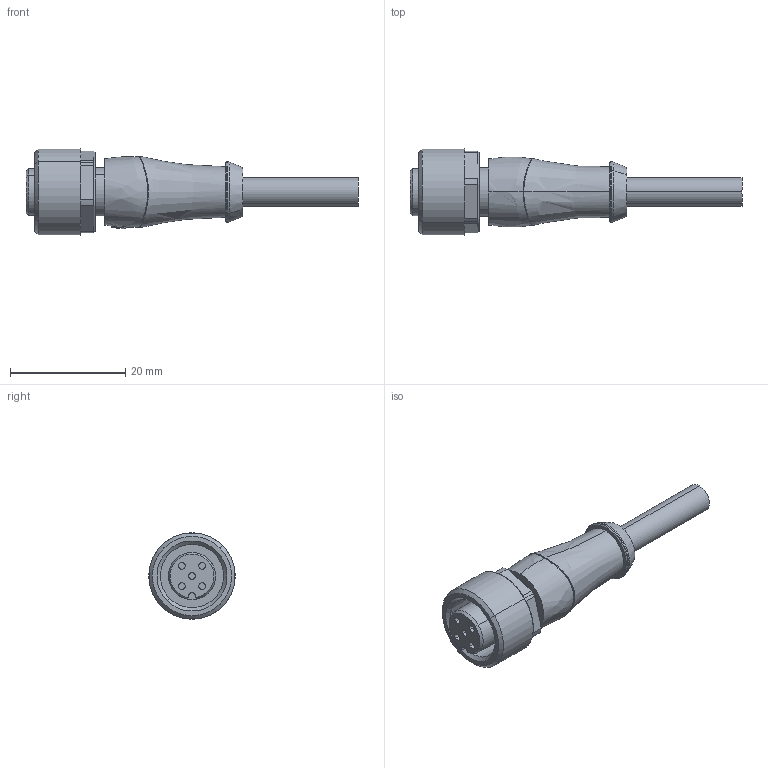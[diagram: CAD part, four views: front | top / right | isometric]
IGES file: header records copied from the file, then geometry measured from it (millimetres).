
Start section: SolidWorks IGES file using analytic representation for surfaces
Global section: file name: C:\Temp\JobServerData\JobServer Files\92bed16f-c5ce-47df-8cae-b0d0c1300f1d\work\output\YF2A1x-xxxxxxXLEAX-S222869.IGS; native system: SolidWorks 2016; preprocessor: SolidWorks 2016; author: SYSTEM; date: 180220.175939; units: millimetre
Bounding box: 57.7 x 14.98 x 14.98 mm (x, y, z)
Surface area: 2675.3 mm2 (no closed solid volume)
Topology: 0 solids, 2 shells, 96 faces, 228 edges, 146 vertices
Faces by surface type: revolution 52, plane 32, bspline 12
